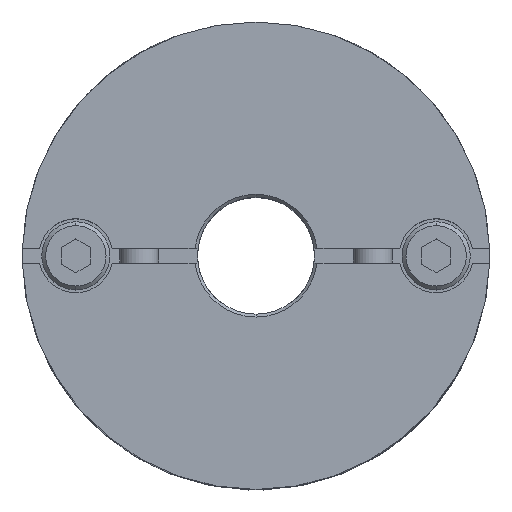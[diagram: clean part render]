
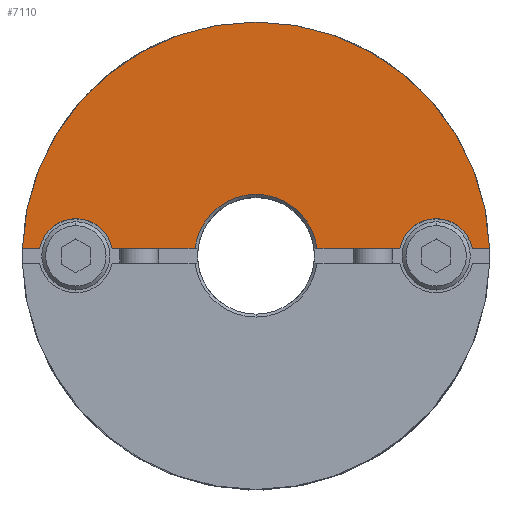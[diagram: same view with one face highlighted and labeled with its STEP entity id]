
A CAD part, top view. The second image highlights one B-rep face of the part: STEP entity #7110.
In plain terms, the highlighted planar face has unit normal (0, 0, 1).
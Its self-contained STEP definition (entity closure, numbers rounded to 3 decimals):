
#553=CARTESIAN_POINT('',(0.,6.3,19.3));
#554=VERTEX_POINT('',#553);
#563=CARTESIAN_POINT('',(-6.255,0.75,19.3));
#564=VERTEX_POINT('',#563);
#565=CARTESIAN_POINT('',(0.,0.,19.3));
#566=DIRECTION('',(0.0,0.0,1.0));
#567=DIRECTION('',(0.0,-1.0,0.0));
#568=AXIS2_PLACEMENT_3D('',#565,#566,#567);
#569=CIRCLE('',#568,6.3);
#570=EDGE_CURVE('',#554,#564,#569,.T.);
#742=CARTESIAN_POINT('',(0.,24.,19.3));
#743=VERTEX_POINT('',#742);
#827=CARTESIAN_POINT('',(-23.988,0.75,19.3));
#828=VERTEX_POINT('',#827);
#835=CARTESIAN_POINT('',(0.,0.,19.3));
#836=DIRECTION('',(0.0,0.0,-1.0));
#837=DIRECTION('',(0.0,1.0,0.0));
#838=AXIS2_PLACEMENT_3D('',#835,#836,#837);
#839=CIRCLE('',#838,24.0);
#840=EDGE_CURVE('',#828,#743,#839,.T.);
#1041=CARTESIAN_POINT('',(-18.5,3.8,19.3));
#1042=VERTEX_POINT('',#1041);
#1051=CARTESIAN_POINT('',(-22.225,0.75,19.3));
#1052=VERTEX_POINT('',#1051);
#1053=CARTESIAN_POINT('',(-18.5,0.,19.3));
#1054=DIRECTION('',(0.0,0.0,-1.0));
#1055=DIRECTION('',(0.0,1.0,0.0));
#1056=AXIS2_PLACEMENT_3D('',#1053,#1054,#1055);
#1057=CIRCLE('',#1056,3.8);
#1058=EDGE_CURVE('',#1052,#1042,#1057,.T.);
#1125=CARTESIAN_POINT('',(18.5,3.8,19.3));
#1126=VERTEX_POINT('',#1125);
#1135=CARTESIAN_POINT('',(14.775,0.75,19.3));
#1136=VERTEX_POINT('',#1135);
#1137=CARTESIAN_POINT('',(18.5,0.,19.3));
#1138=DIRECTION('',(0.0,0.0,-1.0));
#1139=DIRECTION('',(0.0,1.0,0.0));
#1140=AXIS2_PLACEMENT_3D('',#1137,#1138,#1139);
#1141=CIRCLE('',#1140,3.8);
#1142=EDGE_CURVE('',#1136,#1126,#1141,.T.);
#6786=CARTESIAN_POINT('',(22.225,0.75,19.3));
#6787=VERTEX_POINT('',#6786);
#6794=CARTESIAN_POINT('',(18.5,0.,19.3));
#6795=DIRECTION('',(0.0,0.0,-1.0));
#6796=DIRECTION('',(0.0,1.0,0.0));
#6797=AXIS2_PLACEMENT_3D('',#6794,#6795,#6796);
#6798=CIRCLE('',#6797,3.8);
#6799=EDGE_CURVE('',#1126,#6787,#6798,.T.);
#6852=CARTESIAN_POINT('',(-14.775,0.75,19.3));
#6853=VERTEX_POINT('',#6852);
#6860=CARTESIAN_POINT('',(-18.5,0.,19.3));
#6861=DIRECTION('',(0.0,0.0,-1.0));
#6862=DIRECTION('',(0.0,1.0,0.0));
#6863=AXIS2_PLACEMENT_3D('',#6860,#6861,#6862);
#6864=CIRCLE('',#6863,3.8);
#6865=EDGE_CURVE('',#1042,#6853,#6864,.T.);
#6884=CARTESIAN_POINT('',(23.988,0.75,19.3));
#6885=VERTEX_POINT('',#6884);
#6892=CARTESIAN_POINT('',(22.225,0.75,19.3));
#6893=DIRECTION('',(1.0,0.0,0.0));
#6894=VECTOR('',#6893,1.763);
#6895=LINE('',#6892,#6894);
#6896=EDGE_CURVE('',#6787,#6885,#6895,.T.);
#6907=CARTESIAN_POINT('',(6.255,0.75,19.3));
#6908=VERTEX_POINT('',#6907);
#6909=CARTESIAN_POINT('',(6.255,0.75,19.3));
#6910=DIRECTION('',(1.0,0.0,0.0));
#6911=VECTOR('',#6910,8.52);
#6912=LINE('',#6909,#6911);
#6913=EDGE_CURVE('',#6908,#1136,#6912,.T.);
#7069=CARTESIAN_POINT('',(0.,2.182,19.3));
#7070=DIRECTION('',(0.0,0.0,1.0));
#7071=DIRECTION('',(0.0,1.0,0.0));
#7072=AXIS2_PLACEMENT_3D('',#7069,#7070,#7071);
#7073=PLANE('',#7072);
#7074=ORIENTED_EDGE('',*,*,#1142,.T.);
#7075=ORIENTED_EDGE('',*,*,#6799,.T.);
#7076=ORIENTED_EDGE('',*,*,#6896,.T.);
#7077=CARTESIAN_POINT('',(0.,0.,19.3));
#7078=DIRECTION('',(0.0,0.0,-1.0));
#7079=DIRECTION('',(0.0,1.0,0.0));
#7080=AXIS2_PLACEMENT_3D('',#7077,#7078,#7079);
#7081=CIRCLE('',#7080,24.0);
#7082=EDGE_CURVE('',#743,#6885,#7081,.T.);
#7083=ORIENTED_EDGE('',*,*,#7082,.F.);
#7084=ORIENTED_EDGE('',*,*,#840,.F.);
#7085=CARTESIAN_POINT('',(-23.988,0.75,19.3));
#7086=DIRECTION('',(1.0,0.0,0.0));
#7087=VECTOR('',#7086,1.763);
#7088=LINE('',#7085,#7087);
#7089=EDGE_CURVE('',#828,#1052,#7088,.T.);
#7090=ORIENTED_EDGE('',*,*,#7089,.T.);
#7091=ORIENTED_EDGE('',*,*,#1058,.T.);
#7092=ORIENTED_EDGE('',*,*,#6865,.T.);
#7093=CARTESIAN_POINT('',(-14.775,0.75,19.3));
#7094=DIRECTION('',(1.0,0.0,0.0));
#7095=VECTOR('',#7094,8.52);
#7096=LINE('',#7093,#7095);
#7097=EDGE_CURVE('',#6853,#564,#7096,.T.);
#7098=ORIENTED_EDGE('',*,*,#7097,.T.);
#7099=ORIENTED_EDGE('',*,*,#570,.F.);
#7100=CARTESIAN_POINT('',(0.,0.,19.3));
#7101=DIRECTION('',(0.0,0.0,1.0));
#7102=DIRECTION('',(0.0,-1.0,0.0));
#7103=AXIS2_PLACEMENT_3D('',#7100,#7101,#7102);
#7104=CIRCLE('',#7103,6.3);
#7105=EDGE_CURVE('',#6908,#554,#7104,.T.);
#7106=ORIENTED_EDGE('',*,*,#7105,.F.);
#7107=ORIENTED_EDGE('',*,*,#6913,.T.);
#7108=EDGE_LOOP('',(#7074,#7075,#7076,#7083,#7084,#7090,#7091,#7092,#7098,#7099,#7106,#7107));
#7109=FACE_OUTER_BOUND('',#7108,.T.);
#7110=ADVANCED_FACE('',(#7109),#7073,.T.);
